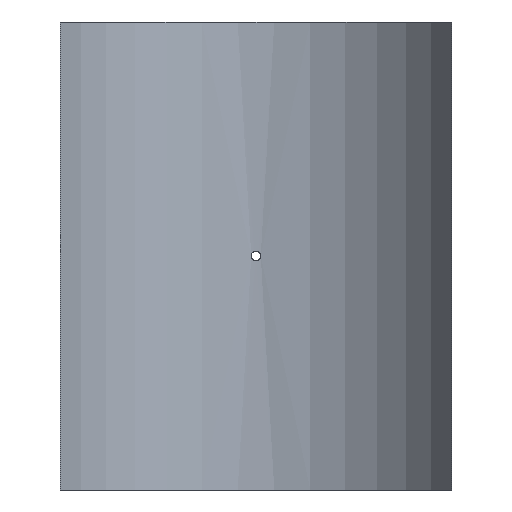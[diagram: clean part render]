
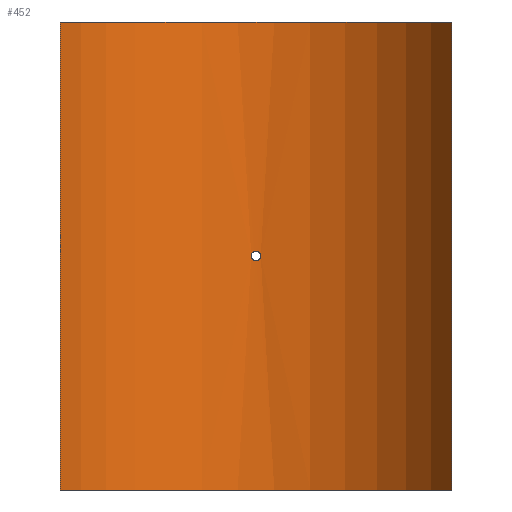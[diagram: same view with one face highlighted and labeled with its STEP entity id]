
A CAD part, front view. The second image highlights one B-rep face of the part: STEP entity #452.
In plain terms, the highlighted cylindrical face has radius 225 mm (diameter 450 mm), a partial arc.
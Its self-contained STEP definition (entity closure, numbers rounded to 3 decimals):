
#19=B_SPLINE_CURVE_WITH_KNOTS('',3,(#788,#789,#790,#791,#792,#793,#794,
#795,#796,#797,#798,#799,#800,#801,#802,#803,#804,#805,#806,#807,#808,#809,
#810,#811,#812,#813,#814,#815,#816,#817,#818,#819,#820,#821),
 .UNSPECIFIED.,.T.,.F.,(4,2,2,2,2,2,2,2,2,2,2,2,2,2,2,2,4),(0.,0.181,
0.362,0.542,0.723,0.904,
1.085,1.266,1.447,1.627,1.808,
1.989,2.17,2.351,2.531,2.712,
2.893),.UNSPECIFIED.);
#43=LINE('',#1065,#62);
#44=LINE('',#1068,#63);
#62=VECTOR('',#661,10.);
#63=VECTOR('',#664,10.);
#76=CYLINDRICAL_SURFACE('',#530,225.);
#88=FACE_BOUND('',#167,.T.);
#127=FACE_OUTER_BOUND('',#166,.T.);
#166=EDGE_LOOP('',(#405,#406,#407,#408));
#167=EDGE_LOOP('',(#409));
#201=CIRCLE('',#529,225.);
#202=CIRCLE('',#531,225.);
#219=VERTEX_POINT('',#786);
#242=VERTEX_POINT('',#1058);
#243=VERTEX_POINT('',#1060);
#244=VERTEX_POINT('',#1064);
#245=VERTEX_POINT('',#1066);
#267=EDGE_CURVE('',#219,#219,#19,.T.);
#299=EDGE_CURVE('',#242,#243,#201,.T.);
#301=EDGE_CURVE('',#244,#242,#43,.T.);
#302=EDGE_CURVE('',#245,#244,#202,.T.);
#303=EDGE_CURVE('',#245,#243,#44,.T.);
#405=ORIENTED_EDGE('',*,*,#301,.F.);
#406=ORIENTED_EDGE('',*,*,#302,.F.);
#407=ORIENTED_EDGE('',*,*,#303,.T.);
#408=ORIENTED_EDGE('',*,*,#299,.F.);
#409=ORIENTED_EDGE('',*,*,#267,.T.);
#452=ADVANCED_FACE('',(#127,#88),#76,.F.);
#529=AXIS2_PLACEMENT_3D('',#1061,#656,#657);
#530=AXIS2_PLACEMENT_3D('',#1063,#659,#660);
#531=AXIS2_PLACEMENT_3D('',#1067,#662,#663);
#656=DIRECTION('center_axis',(0.,0.,1.));
#657=DIRECTION('ref_axis',(0.873,0.487,0.));
#659=DIRECTION('center_axis',(0.,0.,1.));
#660=DIRECTION('ref_axis',(0.873,0.487,0.));
#661=DIRECTION('',(0.,0.,-1.));
#662=DIRECTION('center_axis',(0.,0.,-1.));
#663=DIRECTION('ref_axis',(0.873,0.487,0.));
#664=DIRECTION('',(0.,0.,-1.));
#786=CARTESIAN_POINT('',(4.8,224.949,0.));
#788=CARTESIAN_POINT('Ctrl Pts',(4.8,224.949,0.));
#789=CARTESIAN_POINT('Ctrl Pts',(4.8,224.949,-0.603));
#790=CARTESIAN_POINT('Ctrl Pts',(4.68,224.951,-1.246));
#791=CARTESIAN_POINT('Ctrl Pts',(4.19,224.961,-2.428));
#792=CARTESIAN_POINT('Ctrl Pts',(3.82,224.968,-2.968));
#793=CARTESIAN_POINT('Ctrl Pts',(2.968,224.981,-3.82));
#794=CARTESIAN_POINT('Ctrl Pts',(2.428,224.988,-4.19));
#795=CARTESIAN_POINT('Ctrl Pts',(1.246,224.997,-4.68));
#796=CARTESIAN_POINT('Ctrl Pts',(0.603,225.,-4.8));
#797=CARTESIAN_POINT('Ctrl Pts',(-0.603,225.,-4.8));
#798=CARTESIAN_POINT('Ctrl Pts',(-1.246,224.997,-4.68));
#799=CARTESIAN_POINT('Ctrl Pts',(-2.428,224.988,-4.19));
#800=CARTESIAN_POINT('Ctrl Pts',(-2.968,224.981,-3.82));
#801=CARTESIAN_POINT('Ctrl Pts',(-3.82,224.968,-2.968));
#802=CARTESIAN_POINT('Ctrl Pts',(-4.19,224.961,-2.428));
#803=CARTESIAN_POINT('Ctrl Pts',(-4.68,224.951,-1.246));
#804=CARTESIAN_POINT('Ctrl Pts',(-4.8,224.949,-0.603));
#805=CARTESIAN_POINT('Ctrl Pts',(-4.8,224.949,0.603));
#806=CARTESIAN_POINT('Ctrl Pts',(-4.68,224.951,1.246));
#807=CARTESIAN_POINT('Ctrl Pts',(-4.19,224.961,2.428));
#808=CARTESIAN_POINT('Ctrl Pts',(-3.82,224.968,2.968));
#809=CARTESIAN_POINT('Ctrl Pts',(-2.968,224.981,3.82));
#810=CARTESIAN_POINT('Ctrl Pts',(-2.428,224.988,4.19));
#811=CARTESIAN_POINT('Ctrl Pts',(-1.246,224.997,4.68));
#812=CARTESIAN_POINT('Ctrl Pts',(-0.603,225.,4.8));
#813=CARTESIAN_POINT('Ctrl Pts',(0.603,225.,4.8));
#814=CARTESIAN_POINT('Ctrl Pts',(1.246,224.997,4.68));
#815=CARTESIAN_POINT('Ctrl Pts',(2.428,224.988,4.19));
#816=CARTESIAN_POINT('Ctrl Pts',(2.968,224.981,3.82));
#817=CARTESIAN_POINT('Ctrl Pts',(3.82,224.968,2.968));
#818=CARTESIAN_POINT('Ctrl Pts',(4.19,224.961,2.428));
#819=CARTESIAN_POINT('Ctrl Pts',(4.68,224.951,1.246));
#820=CARTESIAN_POINT('Ctrl Pts',(4.8,224.949,0.603));
#821=CARTESIAN_POINT('Ctrl Pts',(4.8,224.949,0.));
#1058=CARTESIAN_POINT('',(196.5,109.603,-235.));
#1060=CARTESIAN_POINT('',(-196.5,109.603,-235.));
#1061=CARTESIAN_POINT('Origin',(0.,0.,
-235.));
#1063=CARTESIAN_POINT('Origin',(0.,0.,
0.));
#1064=CARTESIAN_POINT('',(196.5,109.603,235.));
#1065=CARTESIAN_POINT('',(196.5,109.603,0.));
#1066=CARTESIAN_POINT('',(-196.5,109.603,235.));
#1067=CARTESIAN_POINT('Origin',(0.,0.,
235.));
#1068=CARTESIAN_POINT('',(-196.5,109.603,0.));
